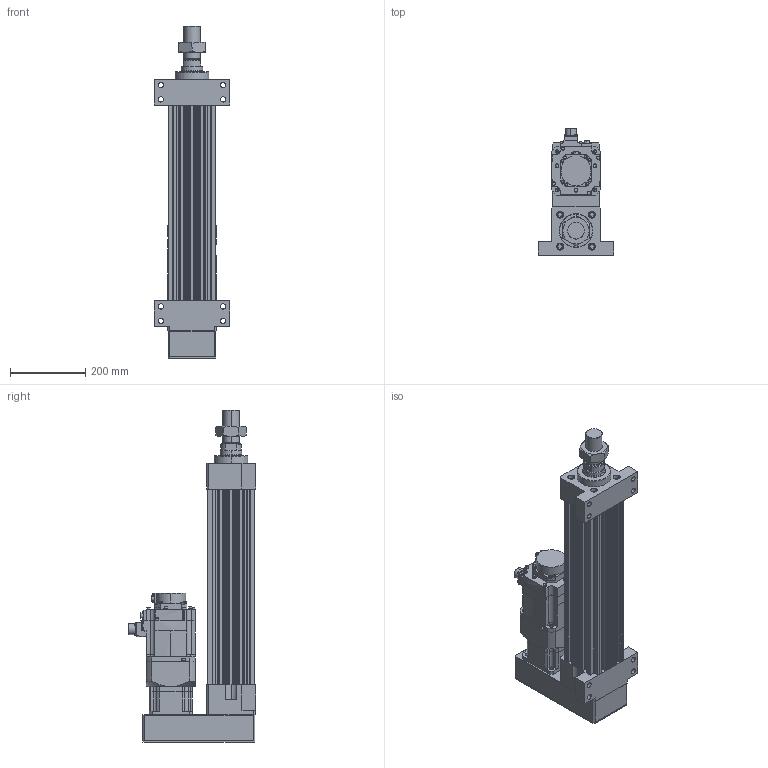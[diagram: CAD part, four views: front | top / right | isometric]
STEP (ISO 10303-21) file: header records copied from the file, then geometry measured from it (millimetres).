
FILE_DESCRIPTION (( 'STEP AP203' ), '1' );
FILE_NAME ('HES130NS(FS)(HS)-P300-W015G00-M-FFB.STEP', '2026-06-10T06:07:20', ( 'tms' ), ( '' ), 'SwSTEP 2.0', 'SolidWorks 2013', '' );
FILE_SCHEMA (( 'CONFIG_CONTROL_DESIGN' ));
Length unit declared in the file: millimetre
Products named in the file (8): HES130-FFB-300; HES130NS(FS)(HS)-P300-W015G00-M-FFB; M45X1.5P; AB1152; HES130-M-ROD-300; AB1151; HG-SR152B; HES130-P-G120
Assembly tree (7 placements, depth 2):
  HES130NS(FS)(HS)-P300-W015G00-M-FFB
    HES130-FFB-300
    HES130-M-ROD-300
    M45X1.5P
    HES130-P-G120
    AB1151
    AB1152
    HG-SR152B
Bounding box: 200 x 337.49 x 882 mm (x, y, z)
Volume: 10888349.4 mm3; surface area: 1332236.1 mm2
Topology: 5 solids, 12 shells, 1206 faces, 3060 edges, 1987 vertices
Faces by surface type: cylinder 568, plane 542, cone 82, bspline 10, torus 4
Entity records: 38313 total; most frequent: CARTESIAN_POINT 7368, DIRECTION 6633, ORIENTED_EDGE 6076, EDGE_CURVE 3048, AXIS2_PLACEMENT_3D 2473, VERTEX_POINT 1987, LINE 1687, VECTOR 1687
